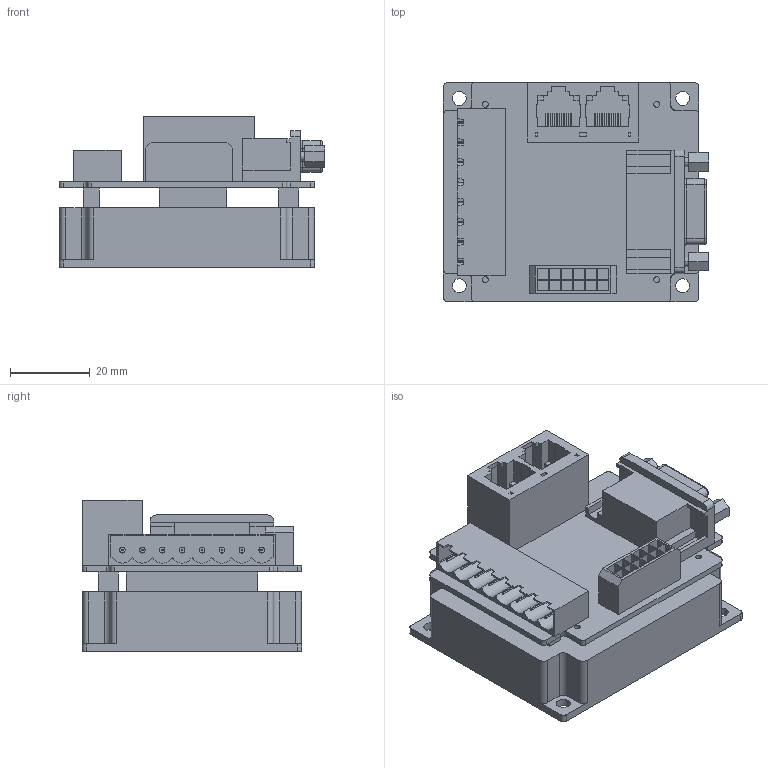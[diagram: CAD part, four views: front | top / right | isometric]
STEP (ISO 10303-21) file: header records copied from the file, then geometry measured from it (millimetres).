
FILE_DESCRIPTION (( 'STEP AP214' ), '1' );
FILE_NAME ('COBRA4812-C1耀倰.STEP', '2025-06-14T02:52:15', ( '' ), ( '' ), 'SwSTEP 2.0', 'SolidWorks 2022', '' );
FILE_SCHEMA (( 'AUTOMOTIVE_DESIGN' ));
Length unit declared in the file: millimetre
Products named in the file (5): COBRA4812-C1基体; 零件1; COBRA4812-C1模型; RJ45-2cobra; db15插座
Assembly tree (4 placements, depth 2):
  COBRA4812-C1模型
    COBRA4812-C1基体
    RJ45-2cobra
    db15插座
    零件1
Bounding box: 66.5 x 55 x 37.96 mm (x, y, z)
Volume: 68711.8 mm3; surface area: 28967.2 mm2
Topology: 5 solids, 5 shells, 546 faces, 1417 edges, 938 vertices
Faces by surface type: plane 378, cylinder 96, bspline 64, cone 8
Entity records: 21877 total; most frequent: CARTESIAN_POINT 4276, ORIENTED_EDGE 2834, DIRECTION 2463, EDGE_CURVE 1417, VECTOR 1077, LINE 1077, VERTEX_POINT 938, AXIS2_PLACEMENT_3D 693
